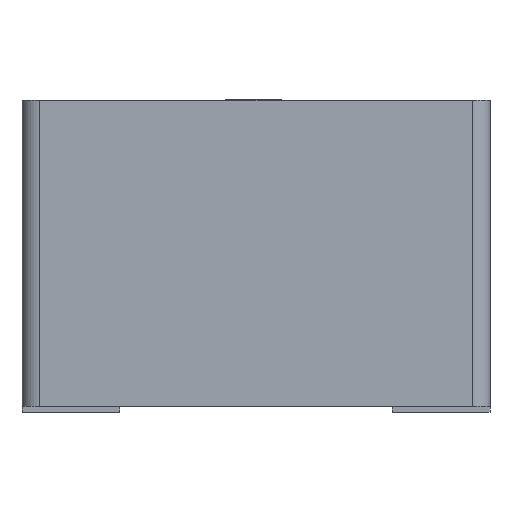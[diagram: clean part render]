
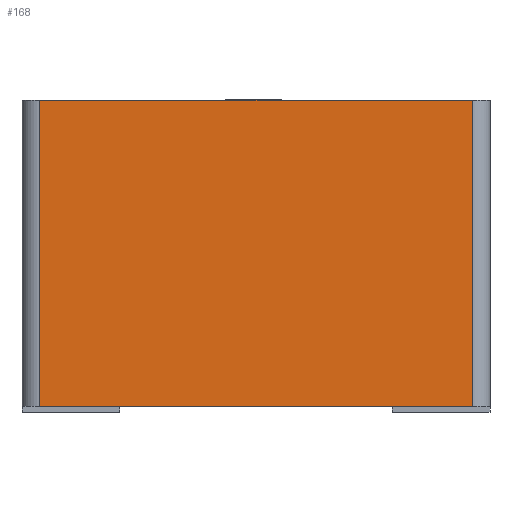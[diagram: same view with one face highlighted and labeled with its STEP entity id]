
A CAD part, left-side view. The second image highlights one B-rep face of the part: STEP entity #168.
In plain terms, the highlighted planar face has unit normal (-1, 0, 0).
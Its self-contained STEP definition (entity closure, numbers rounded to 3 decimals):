
#168 = ADVANCED_FACE('',(#169),#183,.F.);
#169 = FACE_BOUND('',#170,.F.);
#170 = EDGE_LOOP('',(#171,#206,#234,#262));
#171 = ORIENTED_EDGE('',*,*,#172,.F.);
#172 = EDGE_CURVE('',#173,#175,#177,.T.);
#173 = VERTEX_POINT('',#174);
#174 = CARTESIAN_POINT('',(-6.,-5.55,8.));
#175 = VERTEX_POINT('',#176);
#176 = CARTESIAN_POINT('',(-6.,5.55,8.));
#177 = SURFACE_CURVE('',#178,(#182,#194),.PCURVE_S1.);
#178 = LINE('',#179,#180);
#179 = CARTESIAN_POINT('',(-6.,-6.,8.));
#180 = VECTOR('',#181,1.);
#181 = DIRECTION('',(0.,1.,0.));
#182 = PCURVE('',#183,#188);
#183 = PLANE('',#184);
#184 = AXIS2_PLACEMENT_3D('',#185,#186,#187);
#185 = CARTESIAN_POINT('',(-6.,-6.,0.15));
#186 = DIRECTION('',(1.,0.,0.));
#187 = DIRECTION('',(0.,0.,1.));
#188 = DEFINITIONAL_REPRESENTATION('',(#189),#193);
#189 = LINE('',#190,#191);
#190 = CARTESIAN_POINT('',(7.85,0.));
#191 = VECTOR('',#192,1.);
#192 = DIRECTION('',(0.,-1.));
#193 = ( GEOMETRIC_REPRESENTATION_CONTEXT(2) 
PARAMETRIC_REPRESENTATION_CONTEXT() REPRESENTATION_CONTEXT('2D SPACE',''
  ) );
#194 = PCURVE('',#195,#200);
#195 = PLANE('',#196);
#196 = AXIS2_PLACEMENT_3D('',#197,#198,#199);
#197 = CARTESIAN_POINT('',(-6.,-6.,8.));
#198 = DIRECTION('',(0.,0.,1.));
#199 = DIRECTION('',(1.,0.,0.));
#200 = DEFINITIONAL_REPRESENTATION('',(#201),#205);
#201 = LINE('',#202,#203);
#202 = CARTESIAN_POINT('',(0.,0.));
#203 = VECTOR('',#204,1.);
#204 = DIRECTION('',(0.,1.));
#205 = ( GEOMETRIC_REPRESENTATION_CONTEXT(2) 
PARAMETRIC_REPRESENTATION_CONTEXT() REPRESENTATION_CONTEXT('2D SPACE',''
  ) );
#206 = ORIENTED_EDGE('',*,*,#207,.F.);
#207 = EDGE_CURVE('',#208,#173,#210,.T.);
#208 = VERTEX_POINT('',#209);
#209 = CARTESIAN_POINT('',(-6.,-5.55,0.15));
#210 = SURFACE_CURVE('',#211,(#215,#222),.PCURVE_S1.);
#211 = LINE('',#212,#213);
#212 = CARTESIAN_POINT('',(-6.,-5.55,0.15));
#213 = VECTOR('',#214,1.);
#214 = DIRECTION('',(0.,0.,1.));
#215 = PCURVE('',#183,#216);
#216 = DEFINITIONAL_REPRESENTATION('',(#217),#221);
#217 = LINE('',#218,#219);
#218 = CARTESIAN_POINT('',(0.,-0.45));
#219 = VECTOR('',#220,1.);
#220 = DIRECTION('',(1.,0.));
#221 = ( GEOMETRIC_REPRESENTATION_CONTEXT(2) 
PARAMETRIC_REPRESENTATION_CONTEXT() REPRESENTATION_CONTEXT('2D SPACE',''
  ) );
#222 = PCURVE('',#223,#228);
#223 = CYLINDRICAL_SURFACE('',#224,0.45);
#224 = AXIS2_PLACEMENT_3D('',#225,#226,#227);
#225 = CARTESIAN_POINT('',(-5.55,-5.55,0.15));
#226 = DIRECTION('',(0.,0.,1.));
#227 = DIRECTION('',(-1.,-0.,0.));
#228 = DEFINITIONAL_REPRESENTATION('',(#229),#233);
#229 = LINE('',#230,#231);
#230 = CARTESIAN_POINT('',(0.,0.));
#231 = VECTOR('',#232,1.);
#232 = DIRECTION('',(0.,1.));
#233 = ( GEOMETRIC_REPRESENTATION_CONTEXT(2) 
PARAMETRIC_REPRESENTATION_CONTEXT() REPRESENTATION_CONTEXT('2D SPACE',''
  ) );
#234 = ORIENTED_EDGE('',*,*,#235,.T.);
#235 = EDGE_CURVE('',#208,#236,#238,.T.);
#236 = VERTEX_POINT('',#237);
#237 = CARTESIAN_POINT('',(-6.,5.55,0.15));
#238 = SURFACE_CURVE('',#239,(#243,#250),.PCURVE_S1.);
#239 = LINE('',#240,#241);
#240 = CARTESIAN_POINT('',(-6.,-6.,0.15));
#241 = VECTOR('',#242,1.);
#242 = DIRECTION('',(0.,1.,0.));
#243 = PCURVE('',#183,#244);
#244 = DEFINITIONAL_REPRESENTATION('',(#245),#249);
#245 = LINE('',#246,#247);
#246 = CARTESIAN_POINT('',(0.,0.));
#247 = VECTOR('',#248,1.);
#248 = DIRECTION('',(0.,-1.));
#249 = ( GEOMETRIC_REPRESENTATION_CONTEXT(2) 
PARAMETRIC_REPRESENTATION_CONTEXT() REPRESENTATION_CONTEXT('2D SPACE',''
  ) );
#250 = PCURVE('',#251,#256);
#251 = PLANE('',#252);
#252 = AXIS2_PLACEMENT_3D('',#253,#254,#255);
#253 = CARTESIAN_POINT('',(-6.,-6.,0.15));
#254 = DIRECTION('',(0.,0.,1.));
#255 = DIRECTION('',(1.,0.,0.));
#256 = DEFINITIONAL_REPRESENTATION('',(#257),#261);
#257 = LINE('',#258,#259);
#258 = CARTESIAN_POINT('',(0.,0.));
#259 = VECTOR('',#260,1.);
#260 = DIRECTION('',(0.,1.));
#261 = ( GEOMETRIC_REPRESENTATION_CONTEXT(2) 
PARAMETRIC_REPRESENTATION_CONTEXT() REPRESENTATION_CONTEXT('2D SPACE',''
  ) );
#262 = ORIENTED_EDGE('',*,*,#263,.T.);
#263 = EDGE_CURVE('',#236,#175,#264,.T.);
#264 = SURFACE_CURVE('',#265,(#269,#276),.PCURVE_S1.);
#265 = LINE('',#266,#267);
#266 = CARTESIAN_POINT('',(-6.,5.55,0.15));
#267 = VECTOR('',#268,1.);
#268 = DIRECTION('',(0.,0.,1.));
#269 = PCURVE('',#183,#270);
#270 = DEFINITIONAL_REPRESENTATION('',(#271),#275);
#271 = LINE('',#272,#273);
#272 = CARTESIAN_POINT('',(0.,-11.55));
#273 = VECTOR('',#274,1.);
#274 = DIRECTION('',(1.,0.));
#275 = ( GEOMETRIC_REPRESENTATION_CONTEXT(2) 
PARAMETRIC_REPRESENTATION_CONTEXT() REPRESENTATION_CONTEXT('2D SPACE',''
  ) );
#276 = PCURVE('',#277,#282);
#277 = CYLINDRICAL_SURFACE('',#278,0.45);
#278 = AXIS2_PLACEMENT_3D('',#279,#280,#281);
#279 = CARTESIAN_POINT('',(-5.55,5.55,0.15));
#280 = DIRECTION('',(0.,0.,1.));
#281 = DIRECTION('',(-1.,-0.,0.));
#282 = DEFINITIONAL_REPRESENTATION('',(#283),#287);
#283 = LINE('',#284,#285);
#284 = CARTESIAN_POINT('',(-0.,0.));
#285 = VECTOR('',#286,1.);
#286 = DIRECTION('',(-0.,1.));
#287 = ( GEOMETRIC_REPRESENTATION_CONTEXT(2) 
PARAMETRIC_REPRESENTATION_CONTEXT() REPRESENTATION_CONTEXT('2D SPACE',''
  ) );
